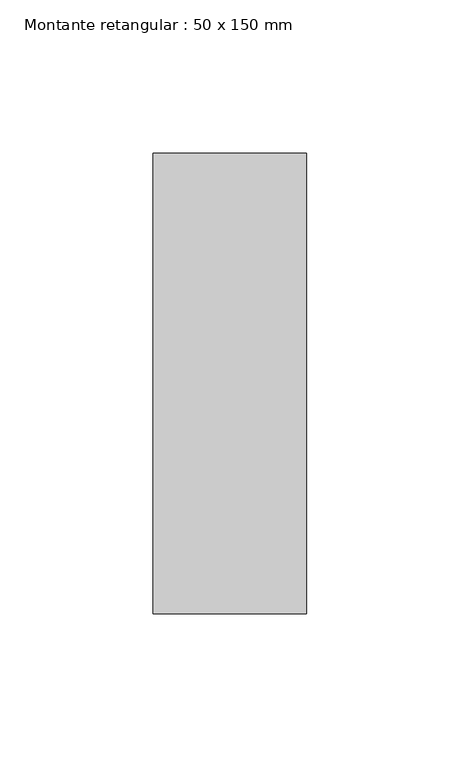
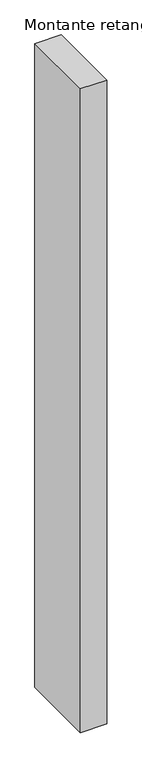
"""IFC4 building model written with IfcOpenShell, lengths in millimetres: member geometry, Montante retangular : 50 x 150 mm."""

from ifc_helpers import new_model, si_unit, frame, origin, place, context, project, spatial, polyline, outline, extrude, source, transform, mapped, element, save


def montante_retangular_50_x_150_mm_6abf4531(model_context):
    return source(origin(), model_context, "Body", "SweptSolid", [
        extrude(outline(polyline([(25.0, 75.0), (25.0, -75.0), (-25.0, -75.0), (-25.0, 75.0), (25.0, 75.0)])), frame((0.0, 0.0, -1294.1666667), z_axis=(0.0, 0.0, 1.0), x_axis=(1.0, 0.0, 0.0)), (0.0, 0.0, 1.0), 1294.1666667),
    ])


if __name__ == "__main__":
    model = new_model("IFC4")
    model_context = context("Model", 3, world=origin())
    ifc_project = project(units=[si_unit("LENGTHUNIT", "METRE", prefix="MILLI")], contexts=[model_context])
    site = spatial("IfcSite", under=ifc_project)
    building = spatial("IfcBuilding", under=site)
    placement = place(None, origin())
    montante_retangular_50_x_150_mm_shape = montante_retangular_50_x_150_mm_6abf4531(model_context)
    element("IfcMember", 1, ObjectType="Montante retangular : 50 x 150 mm", at=placement, inside=building, context=model_context, shape_type="MappedRepresentation", body=[
        mapped(montante_retangular_50_x_150_mm_shape, transform((0.0, 0.0, 0.0), x_axis=(1.0, 0.0, 0.0), y_axis=(0.0, 1.0, 0.0), z_axis=(0.0, 0.0, 1.0))),
    ])
    save(model, "model.ifc")
